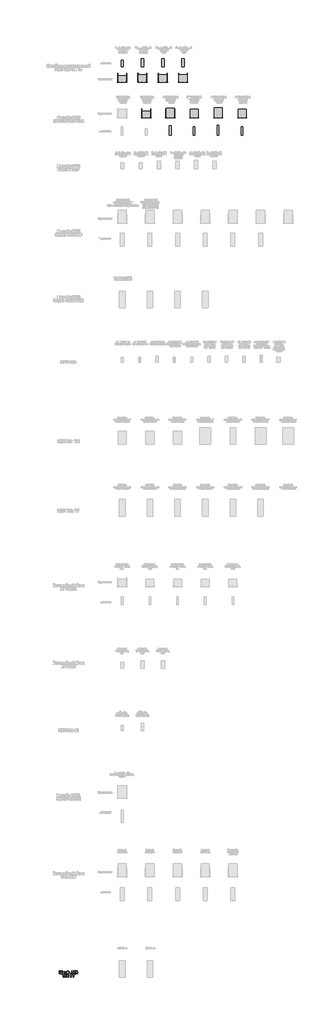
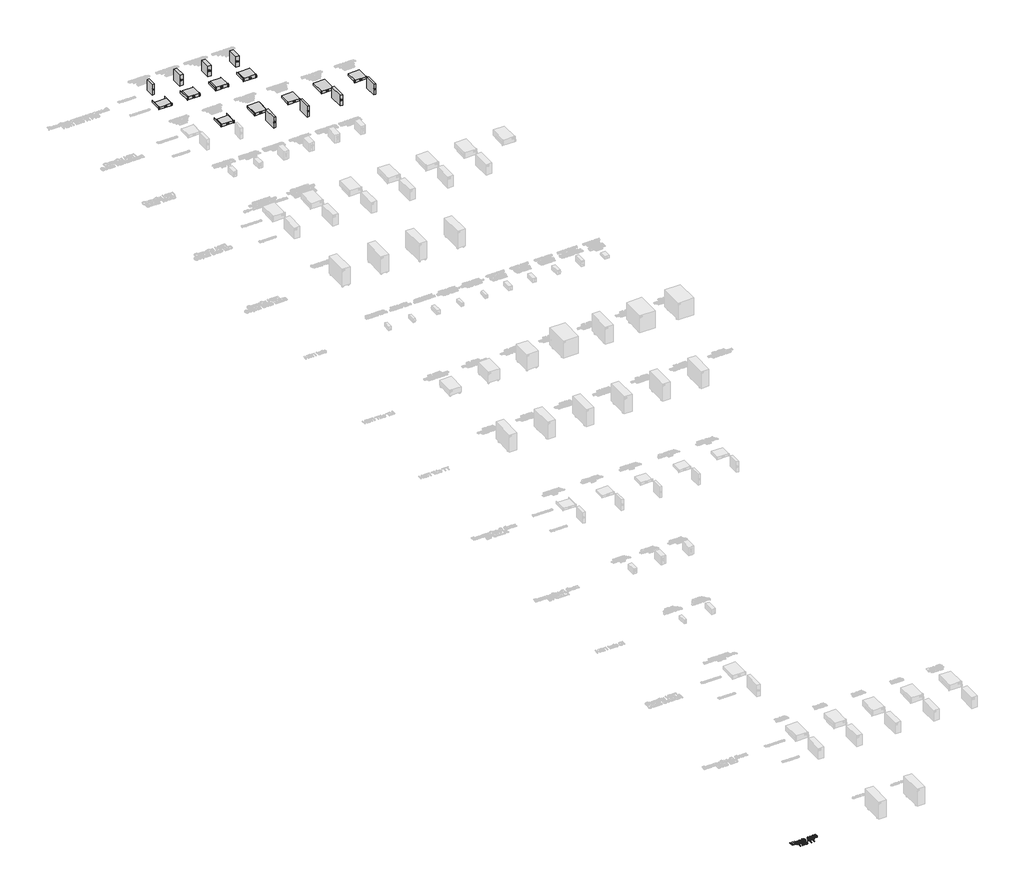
# One storey, part 4 of 74: 70 proxies.
"""IFC4 building model written with IfcOpenShell, lengths in millimetres."""

from ifc_helpers import new_model, si_unit, origin, origin_with_axes, place, context, project, spatial, polyline, outline, extrude, transform, mapped, element, save
from components import electrical_equipment_9999ad84, electrical_equipment_acf2c5a4, electrical_equipment_e30767d2, electrical_equipment_922366cf, electrical_equipment_6d2ac0d9, electrical_equipment_e80a7951, electrical_equipment_c4304d13, electrical_equipment_f03adf1b, electrical_equipment_8e992c06, electrical_equipment_f909d58b, electrical_equipment_2c9e7c44, electrical_equipment_f6df29bd, electrical_equipment_71196d91, electrical_equipment_4dbac31c, as400_464786aa

model = new_model("IFC4")

# Units and contexts
model_context = context("Model", 3, world=origin())
ifc_project = project(units=[si_unit("LENGTHUNIT", "METRE", prefix="MILLI")], contexts=[model_context])

# Site, building, storey
site = spatial("IfcSite", under=ifc_project)
building = spatial("IfcBuilding", under=site)
storey = spatial("IfcBuildingStorey", under=building, Name="Этаж 01", Elevation=0.0)

# Proxies
placement = place(None, origin())
element("IfcBuildingElementProxy", 1, Name="150 мм Arial", ObjectType="150 мм Arial", at=placement, inside=storey, context=model_context, shape_type="SweptSolid", body=[
    extrude(outline(polyline([(-2063.8876748, -45066.805654), (-2045.0521167, -45066.805654), (-2045.0521167, -45198.6545611), (-1990.899887, -45198.6545611), (-1990.899887, -45066.805654), (-1972.0643288, -45066.805654), (-1972.0643288, -45198.6545611), (-1917.9120991, -45198.6545611), (-1917.9120991, -45066.805654), (-1899.076541, -45066.805654), (-1899.076541, -45217.4901192), (-2063.8876748, -45217.4901192), (-2063.8876748, -45066.805654)])), origin_with_axes(), (0.0, 0.0, 1.0), 20.0),
    extrude(outline(polyline([(-1870.8232037, -45106.8312151), (-1851.9876456, -45106.8312151), (-1851.9876456, -45153.9201105), (-1839.3692931, -45150.5355961), (-1829.0318091, -45130.8171212), (-1820.4417645, -45113.8025789), (-1812.8633954, -45108.2659549), (-1799.0862147, -45106.8312151), (-1795.4809711, -45106.8312151), (-1795.4809711, -45125.7771378), (-1800.5577427, -45125.6667732), (-1809.7547925, -45127.653336), (-1816.2295157, -45140.0509592), (-1823.8262789, -45153.460258), (-1834.4764626, -45160.0269516), (-1822.5938742, -45167.3570003), (-1810.9320149, -45182.7988471), (-1790.7720816, -45217.4901192), (-1812.1828137, -45217.4901192), (-1831.9380768, -45183.5346111), (-1841.8708907, -45169.1688192), (-1851.9876456, -45165.6923343), (-1851.9876456, -45217.4901192), (-1870.8232037, -45217.4901192), (-1870.8232037, -45106.8312151)])), origin_with_axes(), (0.0, 0.0, 1.0), 20.0),
    extrude(outline(polyline([(-1708.3665147, -45203.3634506), (-1726.6318557, -45216.1289558), (-1746.8101832, -45219.844564), (-1762.550934, -45217.6096809), (-1774.1622095, -45210.9050315), (-1781.3221128, -45200.7238973), (-1783.7087473, -45188.0595596), (-1780.1035037, -45173.1603388), (-1770.6305424, -45162.3446081), (-1757.4419728, -45156.1641906), (-1741.1448004, -45153.3314993), (-1708.4768793, -45146.8567762), (-1708.3665147, -45142.6629214), (-1709.6632987, -45134.2568178), (-1713.5536508, -45128.756982), (-1722.25406, -45124.6734918), (-1734.3757717, -45123.3123285), (-1753.4320591, -45126.9359661), (-1762.5187444, -45139.7934418), (-1781.3543025, -45137.4389971), (-1773.2057163, -45119.0448973), (-1756.7981793, -45108.2659549), (-1731.9477506, -45104.4767703), (-1709.1206728, -45107.8244965), (-1696.2264088, -45116.2306001), (-1690.4506615, -45129.0144994), (-1689.5309565, -45145.4956128), (-1689.5309565, -45168.9296959), (-1688.5744633, -45201.6527993), (-1684.822067, -45217.4901192), (-1703.6576251, -45217.4901192), (-1708.3665147, -45203.3634506)]), holes=[polyline([(-1708.3665147, -45165.6923343), (-1738.7535675, -45171.4680816), (-1754.9587694, -45174.5215022), (-1762.2980152, -45179.4879091), (-1764.8731891, -45186.7351844), (-1759.2629887, -45196.9255157), (-1742.8002694, -45201.0090058), (-1723.7439821, -45196.5024514), (-1711.4567234, -45185.5947502), (-1708.4768793, -45171.0266232), (-1708.3665147, -45165.6923343)])]), origin_with_axes(), (0.0, 0.0, 1.0), 20.0),
    extrude(outline(polyline([(-1600.0620553, -45066.805654), (-1581.2264971, -45066.805654), (-1581.2264971, -45117.4630047), (-1569.2519382, -45107.6957378), (-1555.2172401, -45104.4767703), (-1538.7315282, -45108.5694575), (-1526.062592, -45120.8475191), (-1517.9921807, -45139.3335894), (-1515.3020436, -45162.0503026), (-1518.1991143, -45185.461393), (-1526.8903264, -45203.8968795), (-1539.8857579, -45215.8576429), (-1555.6954867, -45219.844564), (-1567.2101931, -45218.005154), (-1581.2264971, -45207.9619756), (-1581.2264971, -45259.8701251), (-1600.0620553, -45259.8701251), (-1600.0620553, -45207.9619756), (-1612.0917965, -45216.8647198), (-1626.3288297, -45219.844564), (-1642.1109673, -45216.0369853), (-1655.7593894, -45204.6142494), (-1665.1955625, -45186.100588), (-1668.3409536, -45161.020233), (-1665.4944667, -45138.9381162), (-1656.9550058, -45120.7371545), (-1643.6054879, -45108.5418664), (-1626.3288297, -45104.4767703), (-1611.7423086, -45107.6957378), (-1600.0620553, -45117.4630047), (-1600.0620553, -45066.805654)]), holes=[polyline([(-1581.3368617, -45162.4917609), (-1579.7687647, -45181.5618439), (-1575.0644737, -45193.1547252), (-1567.9965409, -45199.0454357), (-1559.3375184, -45201.0090058), (-1549.6576234, -45198.5947802), (-1541.5136358, -45191.3521035), (-1535.9816103, -45179.0234581), (-1534.1376018, -45161.3513268), (-1535.839056, -45144.5943019), (-1540.9434187, -45132.7301075), (-1548.7149258, -45125.6667732), (-1558.4178134, -45123.3123285), (-1568.4104081, -45125.7633423), (-1575.5795085, -45133.1163836), (-1579.8975234, -45145.3622555), (-1581.3368617, -45162.4917609)]), polyline([(-1649.5053954, -45160.6155628), (-1647.6200002, -45179.092436), (-1641.9638145, -45191.5544386), (-1633.5117257, -45198.645364), (-1623.238621, -45201.0090058), (-1613.0161, -45198.6591596), (-1605.7458321, -45191.6096209), (-1601.400226, -45179.8603896), (-1599.9516907, -45163.4114659), (-1601.4738024, -45145.8680933), (-1606.0401377, -45133.3371128), (-1613.6782876, -45125.8185246), (-1624.4158434, -45123.3123285), (-1634.49581, -45125.7587437), (-1642.5156375, -45133.0979895), (-1647.757956, -45144.8702134), (-1649.5053954, -45160.6155628)])]), origin_with_axes(), (0.0, 0.0, 1.0), 20.0),
    extrude(outline(polyline([(-1448.0900031, -45217.4901192), (-1387.9412969, -45066.805654), (-1371.9016419, -45066.805654), (-1311.7529357, -45217.4901192), (-1331.6553516, -45217.4901192), (-1348.9090172, -45170.4012238), (-1410.9707098, -45170.4012238), (-1428.1875871, -45217.4901192), (-1448.0900031, -45217.4901192)]), holes=[polyline([(-1404.0545283, -45151.5656657), (-1355.7884105, -45151.5656657), (-1369.3632561, -45114.5199488), (-1379.9214694, -45085.6412122), (-1389.3024603, -45111.2825872), (-1404.0545283, -45151.5656657)])]), origin_with_axes(), (0.0, 0.0, 1.0), 20.0),
    extrude(outline(polyline([(-1291.6297905, -45066.805654), (-1272.7942324, -45066.805654), (-1272.7942324, -45132.7301075), (-1260.0425227, -45131.4839073), (-1251.7329882, -45127.7453065), (-1237.0361024, -45102.5269957), (-1226.6434361, -45081.4657515), (-1214.8712122, -45071.0362969), (-1198.040611, -45066.805654), (-1185.6797759, -45067.0263832), (-1185.6797759, -45085.8619414), (-1189.8368425, -45085.7515768), (-1193.993909, -45085.6412122), (-1208.7091888, -45090.1661607), (-1219.8928015, -45109.5535418), (-1233.2285238, -45133.1715659), (-1246.2331523, -45140.9706642), (-1231.6926165, -45149.4871324), (-1217.3544157, -45167.2374387), (-1185.6797759, -45217.4901192), (-1207.5319664, -45217.4901192), (-1234.3137757, -45175.036537), (-1253.1677279, -45152.8716468), (-1261.8727356, -45148.3604938), (-1272.7942324, -45146.8567762), (-1272.7942324, -45217.4901192), (-1291.6297905, -45217.4901192), (-1291.6297905, -45066.805654)])), origin_with_axes(), (0.0, 0.0, 1.0), 20.0),
    extrude(outline(polyline([(-1169.1986625, -45066.805654), (-1075.0208718, -45066.805654), (-1075.0208718, -45085.6412122), (-1150.3631044, -45085.6412122), (-1150.3631044, -45130.3756628), (-1115.083221, -45130.3756628), (-1083.9971925, -45134.2016355), (-1073.595329, -45139.7290625), (-1065.4927281, -45148.6593979), (-1060.2780008, -45160.1557103), (-1058.5397584, -45173.381068), (-1063.4877712, -45194.8469824), (-1078.2582333, -45211.1625489), (-1091.5295763, -45215.9082266), (-1111.6987067, -45217.4901192), (-1169.1986625, -45217.4901192), (-1169.1986625, -45066.805654)]), holes=[polyline([(-1150.3631044, -45198.6545611), (-1110.0064495, -45198.6545611), (-1095.7418251, -45197.1002596), (-1085.5422968, -45192.4373554), (-1079.4170616, -45184.6658482), (-1077.3753165, -45173.7857382), (-1082.0474179, -45159.0336702), (-1095.0520464, -45151.1609955), (-1123.4341423, -45149.2112209), (-1150.3631044, -45149.2112209), (-1150.3631044, -45198.6545611)])]), origin_with_axes(), (0.0, 0.0, 1.0), 20.0),
    extrude(outline(polyline([(-1846.1015337, -45400.452346), (-1846.1015337, -45268.6034389), (-1895.5448738, -45268.6034389), (-1895.5448738, -45249.7678808), (-1777.8226354, -45249.7678808), (-1777.8226354, -45268.6034389), (-1827.2659755, -45268.6034389), (-1827.2659755, -45400.452346), (-1846.1015337, -45400.452346)])), origin_with_axes(), (0.0, 0.0, 1.0), 20.0),
    extrude(outline(polyline([(-1758.9870772, -45400.452346), (-1758.9870772, -45289.7934418), (-1742.5059638, -45289.7934418), (-1742.5059638, -45306.1641906), (-1730.8073164, -45291.0810288), (-1719.0350925, -45287.4389971), (-1700.125958, -45293.2515326), (-1706.4167401, -45310.1373162), (-1719.6604919, -45306.2745552), (-1730.3106757, -45309.9901634), (-1737.0980985, -45320.2908592), (-1740.1515191, -45342.2902026), (-1740.1515191, -45400.452346), (-1758.9870772, -45400.452346)])), origin_with_axes(), (0.0, 0.0, 1.0), 20.0),
    extrude(outline(polyline([(-1688.3537341, -45268.6034389), (-1688.3537341, -45249.7678808), (-1669.518176, -45249.7678808), (-1669.518176, -45268.6034389), (-1688.3537341, -45268.6034389)])), origin_with_axes(), (0.0, 0.0, 1.0), 20.0),
    extrude(outline(polyline([(-1688.3537341, -45400.452346), (-1688.3537341, -45289.7934418), (-1669.518176, -45289.7934418), (-1669.518176, -45400.452346), (-1688.3537341, -45400.452346)])), origin_with_axes(), (0.0, 0.0, 1.0), 20.0),
    extrude(outline(polyline([(-1645.9737283, -45345.1228939), (-1641.8994352, -45318.4422522), (-1629.6765559, -45299.6894675), (-1614.575, -45290.5016147), (-1596.4935999, -45287.4389971), (-1576.7061471, -45291.1684008), (-1560.9010169, -45302.356612), (-1550.5405402, -45320.1207138), (-1547.087048, -45343.5777895), (-1548.6137583, -45362.6064857), (-1553.1938891, -45377.0918393), (-1560.6940833, -45387.9397596), (-1570.9809836, -45396.0561562), (-1583.1992643, -45401.1191321), (-1596.4935999, -45402.8067908), (-1616.520176, -45399.0911826), (-1632.3069122, -45387.9443582), (-1642.5570243, -45369.8077758), (-1645.9737283, -45345.1228939)]), holes=[polyline([(-1627.1381701, -45345.0861057), (-1624.9584693, -45362.1328377), (-1618.4193668, -45374.277542), (-1608.5785235, -45381.54781), (-1596.4935999, -45383.9712326), (-1584.4638587, -45381.5340144), (-1574.6414094, -45374.2223597), (-1568.102307, -45361.916707), (-1565.9226061, -45344.4974945), (-1568.1161025, -45327.9474033), (-1574.6965917, -45315.9682458), (-1584.5328366, -45308.6979779), (-1596.4935999, -45306.2745552), (-1608.5785235, -45308.6887808), (-1618.4193668, -45315.9314576), (-1624.9584693, -45328.0485708), (-1627.1381701, -45345.0861057)])]), origin_with_axes(), (0.0, 0.0, 1.0), 20.0),
    extrude(outline(polyline([(-1427.0103648, -45400.452346), (-1427.0103648, -45268.6034389), (-1476.4537049, -45268.6034389), (-1476.4537049, -45249.7678808), (-1358.7314665, -45249.7678808), (-1358.7314665, -45268.6034389), (-1408.1748066, -45268.6034389), (-1408.1748066, -45400.452346), (-1427.0103648, -45400.452346)])), origin_with_axes(), (0.0, 0.0, 1.0), 20.0),
    extrude(outline(polyline([(-1299.8703472, -45400.452346), (-1299.8703472, -45268.6034389), (-1349.3136874, -45268.6034389), (-1349.3136874, -45249.7678808), (-1231.5914489, -45249.7678808), (-1231.5914489, -45268.6034389), (-1281.0347891, -45268.6034389), (-1281.0347891, -45400.452346), (-1299.8703472, -45400.452346)])), origin_with_axes(), (0.0, 0.0, 1.0), 20.0),
])
electrical_equipment_shape = electrical_equipment_9999ad84(model_context)
element("IfcBuildingElementProxy", 2, Name="НВО_КНС_ОнлайнИБПSmallRackmount_DKC : 2000 ВА", ObjectType="НВО_КНС_ОнлайнИБПSmallRackmount_DKC : 2000 ВА", at=placement, inside=storey, context=model_context, shape_type="MappedRepresentation", body=[
    mapped(electrical_equipment_shape, transform((3952.6732678, 1173.1905557, 0.0), x_axis=(1.0, 0.0, 0.0), y_axis=(0.0, 1.0, 0.0), z_axis=(0.0, 0.0, 1.0))),
])
electrical_equipment_2_shape = electrical_equipment_acf2c5a4(model_context)
element("IfcBuildingElementProxy", 3, Name="НВО_КНС_ОнлайнИБПSmallRackmount_DKC : 2000 ВА, без АКБ", ObjectType="НВО_КНС_ОнлайнИБПSmallRackmount_DKC : 2000 ВА, без АКБ", at=placement, inside=storey, context=model_context, shape_type="MappedRepresentation", body=[
    mapped(electrical_equipment_2_shape, transform((5252.6732678, 1173.1905557, 0.0), x_axis=(1.0, 0.0, 0.0), y_axis=(0.0, 1.0, 0.0), z_axis=(0.0, 0.0, 1.0))),
])
electrical_equipment_3_shape = electrical_equipment_e30767d2(model_context)
element("IfcBuildingElementProxy", 4, Name="НВО_КНС_ОнлайнИБПSmallRackmount_DKC : 3000 ВА", ObjectType="НВО_КНС_ОнлайнИБПSmallRackmount_DKC : 3000 ВА", at=placement, inside=storey, context=model_context, shape_type="MappedRepresentation", body=[
    mapped(electrical_equipment_3_shape, transform((6552.6732678, 1173.1905557, 0.0), x_axis=(1.0, 0.0, 0.0), y_axis=(0.0, 1.0, 0.0), z_axis=(0.0, 0.0, 1.0))),
])
element("IfcBuildingElementProxy", 5, Name="НВО_КНС_ОнлайнИБПSmallRackmount_DKC : 3000 ВА, без АКБ", ObjectType="НВО_КНС_ОнлайнИБПSmallRackmount_DKC : 3000 ВА, без АКБ", at=placement, inside=storey, context=model_context, shape_type="MappedRepresentation", body=[
    mapped(electrical_equipment_2_shape, transform((7852.6732678, 1173.1905557, 0.0), x_axis=(1.0, 0.0, 0.0), y_axis=(0.0, 1.0, 0.0), z_axis=(0.0, 0.0, 1.0))),
])
electrical_equipment_4_shape = electrical_equipment_922366cf(model_context)
element("IfcBuildingElementProxy", 6, Name="НВО_КНС_ОнлайнИБПSmallRackmount_DKC : 2000 ВА", ObjectType="НВО_КНС_ОнлайнИБПSmallRackmount_DKC : 2000 ВА", at=placement, inside=storey, context=model_context, shape_type="MappedRepresentation", body=[
    mapped(electrical_equipment_4_shape, transform((3952.6732678, 224.7189833, 0.0), x_axis=(1.0, 0.0, 0.0), y_axis=(0.0, 1.0, 0.0), z_axis=(0.0, 0.0, 1.0))),
])
electrical_equipment_5_shape = electrical_equipment_6d2ac0d9(model_context)
element("IfcBuildingElementProxy", 7, Name="НВО_КНС_ОнлайнИБПSmallRackmount_DKC : 2000 ВА, без АКБ", ObjectType="НВО_КНС_ОнлайнИБПSmallRackmount_DKC : 2000 ВА, без АКБ", at=placement, inside=storey, context=model_context, shape_type="MappedRepresentation", body=[
    mapped(electrical_equipment_5_shape, transform((5252.6732678, 224.7189833, 0.0), x_axis=(1.0, 0.0, 0.0), y_axis=(0.0, 1.0, 0.0), z_axis=(0.0, 0.0, 1.0))),
])
electrical_equipment_6_shape = electrical_equipment_e80a7951(model_context)
element("IfcBuildingElementProxy", 8, Name="НВО_КНС_ОнлайнИБПSmallRackmount_DKC : 3000 ВА", ObjectType="НВО_КНС_ОнлайнИБПSmallRackmount_DKC : 3000 ВА", at=placement, inside=storey, context=model_context, shape_type="MappedRepresentation", body=[
    mapped(electrical_equipment_6_shape, transform((6552.6732678, 224.7189833, 0.0), x_axis=(1.0, 0.0, 0.0), y_axis=(0.0, 1.0, 0.0), z_axis=(0.0, 0.0, 1.0))),
])
element("IfcBuildingElementProxy", 9, Name="НВО_КНС_ОнлайнИБПSmallRackmount_DKC : 3000 ВА, без АКБ", ObjectType="НВО_КНС_ОнлайнИБПSmallRackmount_DKC : 3000 ВА, без АКБ", at=placement, inside=storey, context=model_context, shape_type="MappedRepresentation", body=[
    mapped(electrical_equipment_5_shape, transform((7852.6732678, 224.7189833, 0.0), x_axis=(1.0, 0.0, 0.0), y_axis=(0.0, 1.0, 0.0), z_axis=(0.0, 0.0, 1.0))),
])
electrical_equipment_7_shape = electrical_equipment_c4304d13(model_context)
element("IfcBuildingElementProxy", 10, Name="НВО_КНС_Линейно-интерактивныйИБПInfoRPro_DKC : 1000 ВА", ObjectType="НВО_КНС_Линейно-интерактивныйИБПInfoRPro_DKC : 1000 ВА", at=placement, inside=storey, context=model_context, shape_type="MappedRepresentation", body=[
    mapped(electrical_equipment_7_shape, transform((1352.6732678, 3959.8697456, 0.0), x_axis=(1.0, 0.0, 0.0), y_axis=(0.0, 1.0, 0.0), z_axis=(0.0, 0.0, 1.0))),
])
electrical_equipment_8_shape = electrical_equipment_f03adf1b(model_context)
element("IfcBuildingElementProxy", 11, Name="НВО_КНС_Линейно-интерактивныйИБПInfoRPro_DKC : 1500 ВА", ObjectType="НВО_КНС_Линейно-интерактивныйИБПInfoRPro_DKC : 1500 ВА", at=placement, inside=storey, context=model_context, shape_type="MappedRepresentation", body=[
    mapped(electrical_equipment_8_shape, transform((2452.6732678, 3959.8697456, 0.0), x_axis=(1.0, 0.0, 0.0), y_axis=(0.0, 1.0, 0.0), z_axis=(0.0, 0.0, 1.0))),
])
element("IfcBuildingElementProxy", 12, Name="НВО_КНС_Линейно-интерактивныйИБПInfoRPro_DKC : 3000 ВА", ObjectType="НВО_КНС_Линейно-интерактивныйИБПInfoRPro_DKC : 3000 ВА", at=placement, inside=storey, context=model_context, shape_type="MappedRepresentation", body=[
    mapped(electrical_equipment_8_shape, transform((4652.6732678, 3959.8697456, 0.0), x_axis=(1.0, 0.0, 0.0), y_axis=(0.0, 1.0, 0.0), z_axis=(0.0, 0.0, 1.0))),
])
electrical_equipment_9_shape = electrical_equipment_8e992c06(model_context)
element("IfcBuildingElementProxy", 13, Name="НВО_КНС_Линейно-интерактивныйИБПInfoRPro_DKC : 1500 ВА", ObjectType="НВО_КНС_Линейно-интерактивныйИБПInfoRPro_DKC : 1500 ВА", at=placement, inside=storey, context=model_context, shape_type="MappedRepresentation", body=[
    mapped(electrical_equipment_9_shape, transform((2447.115278, 3108.9936751, 0.0), x_axis=(1.0, 0.0, 0.0), y_axis=(0.0, 1.0, 0.0), z_axis=(0.0, 0.0, 1.0))),
])
element("IfcBuildingElementProxy", 14, Name="НВО_КНС_Линейно-интерактивныйИБПInfoRPro_DKC : 2000 ВА", ObjectType="НВО_КНС_Линейно-интерактивныйИБПInfoRPro_DKC : 2000 ВА", at=placement, inside=storey, context=model_context, shape_type="MappedRepresentation", body=[
    mapped(electrical_equipment_9_shape, transform((3547.115278, 3108.9936751, 0.0), x_axis=(1.0, 0.0, 0.0), y_axis=(0.0, 1.0, 0.0), z_axis=(0.0, 0.0, 1.0))),
])
element("IfcBuildingElementProxy", 15, Name="НВО_КНС_Линейно-интерактивныйИБПInfoRPro_DKC : 3000 ВА", ObjectType="НВО_КНС_Линейно-интерактивныйИБПInfoRPro_DKC : 3000 ВА", at=placement, inside=storey, context=model_context, shape_type="MappedRepresentation", body=[
    mapped(electrical_equipment_9_shape, transform((4647.115278, 3108.9936751, 0.0), x_axis=(1.0, 0.0, 0.0), y_axis=(0.0, 1.0, 0.0), z_axis=(0.0, 0.0, 1.0))),
])
electrical_equipment_10_shape = electrical_equipment_f909d58b(model_context)
element("IfcBuildingElementProxy", 16, Name="НВО_КНС_Линейно-интерактивныйИБПInfoRPro_DKC : 1000 ВА", ObjectType="НВО_КНС_Линейно-интерактивныйИБПInfoRPro_DKC : 1000 ВА", at=placement, inside=storey, context=model_context, shape_type="MappedRepresentation", body=[
    mapped(electrical_equipment_10_shape, transform((1347.115278, 3108.9936751, 0.0), x_axis=(1.0, 0.0, 0.0), y_axis=(0.0, 1.0, 0.0), z_axis=(0.0, 0.0, 1.0))),
])
element("IfcBuildingElementProxy", 17, Name="НВО_КНС_Линейно-интерактивныйИБПInfoRPro_DKC : 2000 ВА", ObjectType="НВО_КНС_Линейно-интерактивныйИБПInfoRPro_DKC : 2000 ВА", at=placement, inside=storey, context=model_context, shape_type="MappedRepresentation", body=[
    mapped(electrical_equipment_8_shape, transform((3552.6732678, 3959.8697456, 0.0), x_axis=(1.0, 0.0, 0.0), y_axis=(0.0, 1.0, 0.0), z_axis=(0.0, 0.0, 1.0))),
])
electrical_equipment_11_shape = electrical_equipment_2c9e7c44(model_context)
element("IfcBuildingElementProxy", 18, Name="Рельсы для ИБП RAILSMLR : RAILSMLR", ObjectType="Рельсы для ИБП RAILSMLR : RAILSMLR", at=placement, inside=storey, context=model_context, shape_type="MappedRepresentation", body=[
    mapped(electrical_equipment_11_shape, transform((1347.115278, 3110.9936751, 0.0), x_axis=(1.0, 0.0, 0.0), y_axis=(0.0, 1.0, 0.0), z_axis=(0.0, 0.0, 1.0))),
])
element("IfcBuildingElementProxy", 19, Name="Рельсы для ИБП RAILSMLR : RAILSMLR", ObjectType="Рельсы для ИБП RAILSMLR : RAILSMLR", at=placement, inside=storey, context=model_context, shape_type="MappedRepresentation", body=[
    mapped(electrical_equipment_11_shape, transform((2447.115278, 3110.9936751, 0.0), x_axis=(1.0, 0.0, 0.0), y_axis=(0.0, 1.0, 0.0), z_axis=(0.0, 0.0, 1.0))),
])
element("IfcBuildingElementProxy", 20, Name="Рельсы для ИБП RAILSMLR : RAILSMLR", ObjectType="Рельсы для ИБП RAILSMLR : RAILSMLR", at=placement, inside=storey, context=model_context, shape_type="MappedRepresentation", body=[
    mapped(electrical_equipment_11_shape, transform((3547.115278, 3110.9936751, 0.0), x_axis=(1.0, 0.0, 0.0), y_axis=(0.0, 1.0, 0.0), z_axis=(0.0, 0.0, 1.0))),
])
element("IfcBuildingElementProxy", 21, Name="Рельсы для ИБП RAILSMLR : RAILSMLR", ObjectType="Рельсы для ИБП RAILSMLR : RAILSMLR", at=placement, inside=storey, context=model_context, shape_type="MappedRepresentation", body=[
    mapped(electrical_equipment_11_shape, transform((4647.115278, 3110.9936751, 0.0), x_axis=(1.0, 0.0, 0.0), y_axis=(0.0, 1.0, 0.0), z_axis=(0.0, 0.0, 1.0))),
])
element("IfcBuildingElementProxy", 22, Name="Рельсы для ИБП RAILSMLR : RAILSMLR", ObjectType="Рельсы для ИБП RAILSMLR : RAILSMLR", at=placement, inside=storey, context=model_context, shape_type="MappedRepresentation", body=[
    mapped(electrical_equipment_11_shape, transform((2652.6732678, 1175.1905557, 0.0), x_axis=(1.0, 0.0, 0.0), y_axis=(0.0, 1.0, 0.0), z_axis=(0.0, 0.0, 1.0))),
])
element("IfcBuildingElementProxy", 23, Name="Рельсы для ИБП RAILSMLR : RAILSMLR", ObjectType="Рельсы для ИБП RAILSMLR : RAILSMLR", at=placement, inside=storey, context=model_context, shape_type="MappedRepresentation", body=[
    mapped(electrical_equipment_11_shape, transform((3952.6732678, 1175.1905557, 0.0), x_axis=(1.0, 0.0, 0.0), y_axis=(0.0, 1.0, 0.0), z_axis=(0.0, 0.0, 1.0))),
])
electrical_equipment_12_shape = electrical_equipment_f6df29bd(model_context)
element("IfcBuildingElementProxy", 24, Name="Адаптер SNMPSM : SNMPSM", ObjectType="Адаптер SNMPSM : SNMPSM", at=placement, inside=storey, context=model_context, shape_type="MappedRepresentation", body=[
    mapped(electrical_equipment_12_shape, transform((1352.6732678, 4297.8697456, 0.0), x_axis=(1.0, 0.0, 0.0), y_axis=(0.0, 1.0, 0.0), z_axis=(0.0, 0.0, 1.0))),
])
element("IfcBuildingElementProxy", 25, Name="Адаптер SNMPSM : SNMPSM", ObjectType="Адаптер SNMPSM : SNMPSM", at=placement, inside=storey, context=model_context, shape_type="MappedRepresentation", body=[
    mapped(electrical_equipment_12_shape, transform((2452.6732678, 4369.8697456, 0.0), x_axis=(1.0, 0.0, 0.0), y_axis=(0.0, 1.0, 0.0), z_axis=(0.0, 0.0, 1.0))),
])
element("IfcBuildingElementProxy", 26, Name="Адаптер SNMPSM : SNMPSM", ObjectType="Адаптер SNMPSM : SNMPSM", at=placement, inside=storey, context=model_context, shape_type="MappedRepresentation", body=[
    mapped(electrical_equipment_12_shape, transform((3552.6732678, 4369.8697456, 0.0), x_axis=(1.0, 0.0, 0.0), y_axis=(0.0, 1.0, 0.0), z_axis=(0.0, 0.0, 1.0))),
])
element("IfcBuildingElementProxy", 27, Name="Адаптер SNMPSM : SNMPSM", ObjectType="Адаптер SNMPSM : SNMPSM", at=placement, inside=storey, context=model_context, shape_type="MappedRepresentation", body=[
    mapped(electrical_equipment_12_shape, transform((4652.6732678, 4369.8697456, 0.0), x_axis=(1.0, 0.0, 0.0), y_axis=(0.0, 1.0, 0.0), z_axis=(0.0, 0.0, 1.0))),
])
element("IfcBuildingElementProxy", 28, Name="Адаптер SNMPSM : SNMPSM", ObjectType="Адаптер SNMPSM : SNMPSM", at=placement, inside=storey, context=model_context, shape_type="MappedRepresentation", body=[
    mapped(electrical_equipment_12_shape, transform((1347.115278, 3446.9936751, 0.0), x_axis=(1.0, 0.0, 0.0), y_axis=(0.0, 1.0, 0.0), z_axis=(0.0, 0.0, 1.0))),
])
element("IfcBuildingElementProxy", 29, Name="Адаптер SNMPSM : SNMPSM", ObjectType="Адаптер SNMPSM : SNMPSM", at=placement, inside=storey, context=model_context, shape_type="MappedRepresentation", body=[
    mapped(electrical_equipment_12_shape, transform((2447.115278, 3518.9936751, 0.0), x_axis=(1.0, 0.0, 0.0), y_axis=(0.0, 1.0, 0.0), z_axis=(0.0, 0.0, 1.0))),
])
element("IfcBuildingElementProxy", 30, Name="Адаптер SNMPSM : SNMPSM", ObjectType="Адаптер SNMPSM : SNMPSM", at=placement, inside=storey, context=model_context, shape_type="MappedRepresentation", body=[
    mapped(electrical_equipment_12_shape, transform((3547.115278, 3518.9936751, 0.0), x_axis=(1.0, 0.0, 0.0), y_axis=(0.0, 1.0, 0.0), z_axis=(0.0, 0.0, 1.0))),
])
element("IfcBuildingElementProxy", 31, Name="Адаптер SNMPSM : SNMPSM", ObjectType="Адаптер SNMPSM : SNMPSM", at=placement, inside=storey, context=model_context, shape_type="MappedRepresentation", body=[
    mapped(electrical_equipment_12_shape, transform((4647.115278, 3518.9936751, 0.0), x_axis=(1.0, 0.0, 0.0), y_axis=(0.0, 1.0, 0.0), z_axis=(0.0, 0.0, 1.0))),
])
electrical_equipment_13_shape = electrical_equipment_71196d91(model_context)
element("IfcBuildingElementProxy", 32, Name="Внешний переключатель байпаса MBSSMLR : MBSSMLR", ObjectType="Внешний переключатель байпаса MBSSMLR : MBSSMLR", at=placement, inside=storey, context=model_context, shape_type="MappedRepresentation", body=[
    mapped(electrical_equipment_13_shape, transform((1352.6732678, 4297.8697456, 0.0), x_axis=(1.0, 0.0, 0.0), y_axis=(0.0, 1.0, 0.0), z_axis=(0.0, 0.0, 1.0))),
])
element("IfcBuildingElementProxy", 33, Name="Внешний переключатель байпаса MBSSMLR : MBSSMLR", ObjectType="Внешний переключатель байпаса MBSSMLR : MBSSMLR", at=placement, inside=storey, context=model_context, shape_type="MappedRepresentation", body=[
    mapped(electrical_equipment_13_shape, transform((2452.6732678, 4369.8697456, 0.0), x_axis=(1.0, 0.0, 0.0), y_axis=(0.0, 1.0, 0.0), z_axis=(0.0, 0.0, 1.0))),
])
element("IfcBuildingElementProxy", 34, Name="Внешний переключатель байпаса MBSSMLR : MBSSMLR", ObjectType="Внешний переключатель байпаса MBSSMLR : MBSSMLR", at=placement, inside=storey, context=model_context, shape_type="MappedRepresentation", body=[
    mapped(electrical_equipment_13_shape, transform((3552.6732678, 4369.8697456, 0.0), x_axis=(1.0, 0.0, 0.0), y_axis=(0.0, 1.0, 0.0), z_axis=(0.0, 0.0, 1.0))),
])
element("IfcBuildingElementProxy", 35, Name="Внешний переключатель байпаса MBSSMLR : MBSSMLR", ObjectType="Внешний переключатель байпаса MBSSMLR : MBSSMLR", at=placement, inside=storey, context=model_context, shape_type="MappedRepresentation", body=[
    mapped(electrical_equipment_13_shape, transform((4652.6732678, 4369.8697456, 0.0), x_axis=(1.0, 0.0, 0.0), y_axis=(0.0, 1.0, 0.0), z_axis=(0.0, 0.0, 1.0))),
])
element("IfcBuildingElementProxy", 36, Name="Внешний переключатель байпаса MBSSMLR : MBSSMLR", ObjectType="Внешний переключатель байпаса MBSSMLR : MBSSMLR", at=placement, inside=storey, context=model_context, shape_type="MappedRepresentation", body=[
    mapped(electrical_equipment_13_shape, transform((1347.115278, 3446.9936751, 0.0), x_axis=(1.0, 0.0, 0.0), y_axis=(0.0, 1.0, 0.0), z_axis=(0.0, 0.0, 1.0))),
])
element("IfcBuildingElementProxy", 37, Name="Внешний переключатель байпаса MBSSMLR : MBSSMLR", ObjectType="Внешний переключатель байпаса MBSSMLR : MBSSMLR", at=placement, inside=storey, context=model_context, shape_type="MappedRepresentation", body=[
    mapped(electrical_equipment_13_shape, transform((2447.115278, 3518.9936751, 0.0), x_axis=(1.0, 0.0, 0.0), y_axis=(0.0, 1.0, 0.0), z_axis=(0.0, 0.0, 1.0))),
])
element("IfcBuildingElementProxy", 38, Name="Внешний переключатель байпаса MBSSMLR : MBSSMLR", ObjectType="Внешний переключатель байпаса MBSSMLR : MBSSMLR", at=placement, inside=storey, context=model_context, shape_type="MappedRepresentation", body=[
    mapped(electrical_equipment_13_shape, transform((3547.115278, 3518.9936751, 0.0), x_axis=(1.0, 0.0, 0.0), y_axis=(0.0, 1.0, 0.0), z_axis=(0.0, 0.0, 1.0))),
])
element("IfcBuildingElementProxy", 39, Name="Внешний переключатель байпаса MBSSMLR : MBSSMLR", ObjectType="Внешний переключатель байпаса MBSSMLR : MBSSMLR", at=placement, inside=storey, context=model_context, shape_type="MappedRepresentation", body=[
    mapped(electrical_equipment_13_shape, transform((4647.115278, 3518.9936751, 0.0), x_axis=(1.0, 0.0, 0.0), y_axis=(0.0, 1.0, 0.0), z_axis=(0.0, 0.0, 1.0))),
])
element("IfcBuildingElementProxy", 40, Name="Внешний переключатель байпаса MBSSMLR : MBSSMLR", ObjectType="Внешний переключатель байпаса MBSSMLR : MBSSMLR", at=placement, inside=storey, context=model_context, shape_type="MappedRepresentation", body=[
    mapped(electrical_equipment_13_shape, transform((2652.6732678, 1541.1905557, 0.0), x_axis=(1.0, 0.0, 0.0), y_axis=(0.0, 1.0, 0.0), z_axis=(0.0, 0.0, 1.0))),
])
element("IfcBuildingElementProxy", 41, Name="Внешний переключатель байпаса MBSSMLR : MBSSMLR", ObjectType="Внешний переключатель байпаса MBSSMLR : MBSSMLR", at=placement, inside=storey, context=model_context, shape_type="MappedRepresentation", body=[
    mapped(electrical_equipment_13_shape, transform((3952.6732678, 1701.1905557, 0.0), x_axis=(1.0, 0.0, 0.0), y_axis=(0.0, 1.0, 0.0), z_axis=(0.0, 0.0, 1.0))),
])
element("IfcBuildingElementProxy", 42, Name="Внешний переключатель байпаса MBSSMLR : MBSSMLR", ObjectType="Внешний переключатель байпаса MBSSMLR : MBSSMLR", at=placement, inside=storey, context=model_context, shape_type="MappedRepresentation", body=[
    mapped(electrical_equipment_13_shape, transform((5252.6732678, 1641.1905557, 0.0), x_axis=(1.0, 0.0, 0.0), y_axis=(0.0, 1.0, 0.0), z_axis=(0.0, 0.0, 1.0))),
])
element("IfcBuildingElementProxy", 43, Name="Внешний переключатель байпаса MBSSMLR : MBSSMLR", ObjectType="Внешний переключатель байпаса MBSSMLR : MBSSMLR", at=placement, inside=storey, context=model_context, shape_type="MappedRepresentation", body=[
    mapped(electrical_equipment_13_shape, transform((6552.6732678, 1733.1905557, 0.0), x_axis=(1.0, 0.0, 0.0), y_axis=(0.0, 1.0, 0.0), z_axis=(0.0, 0.0, 1.0))),
])
element("IfcBuildingElementProxy", 44, Name="Внешний переключатель байпаса MBSSMLR : MBSSMLR", ObjectType="Внешний переключатель байпаса MBSSMLR : MBSSMLR", at=placement, inside=storey, context=model_context, shape_type="MappedRepresentation", body=[
    mapped(electrical_equipment_13_shape, transform((7852.6732678, 1641.1905557, 0.0), x_axis=(1.0, 0.0, 0.0), y_axis=(0.0, 1.0, 0.0), z_axis=(0.0, 0.0, 1.0))),
])
element("IfcBuildingElementProxy", 45, Name="Внешний переключатель байпаса MBSSMLR : MBSSMLR", ObjectType="Внешний переключатель байпаса MBSSMLR : MBSSMLR", at=placement, inside=storey, context=model_context, shape_type="MappedRepresentation", body=[
    mapped(electrical_equipment_13_shape, transform((2652.6732678, 592.7189833, 0.0), x_axis=(1.0, 0.0, 0.0), y_axis=(0.0, 1.0, 0.0), z_axis=(0.0, 0.0, 1.0))),
])
element("IfcBuildingElementProxy", 46, Name="Внешний переключатель байпаса MBSSMLR : MBSSMLR", ObjectType="Внешний переключатель байпаса MBSSMLR : MBSSMLR", at=placement, inside=storey, context=model_context, shape_type="MappedRepresentation", body=[
    mapped(electrical_equipment_13_shape, transform((3952.6732678, 752.7189833, 0.0), x_axis=(1.0, 0.0, 0.0), y_axis=(0.0, 1.0, 0.0), z_axis=(0.0, 0.0, 1.0))),
])
element("IfcBuildingElementProxy", 47, Name="Внешний переключатель байпаса MBSSMLR : MBSSMLR", ObjectType="Внешний переключатель байпаса MBSSMLR : MBSSMLR", at=placement, inside=storey, context=model_context, shape_type="MappedRepresentation", body=[
    mapped(electrical_equipment_13_shape, transform((5252.6732678, 692.7189833, 0.0), x_axis=(1.0, 0.0, 0.0), y_axis=(0.0, 1.0, 0.0), z_axis=(0.0, 0.0, 1.0))),
])
element("IfcBuildingElementProxy", 48, Name="Внешний переключатель байпаса MBSSMLR : MBSSMLR", ObjectType="Внешний переключатель байпаса MBSSMLR : MBSSMLR", at=placement, inside=storey, context=model_context, shape_type="MappedRepresentation", body=[
    mapped(electrical_equipment_13_shape, transform((6552.6732678, 784.7189833, 0.0), x_axis=(1.0, 0.0, 0.0), y_axis=(0.0, 1.0, 0.0), z_axis=(0.0, 0.0, 1.0))),
])
element("IfcBuildingElementProxy", 49, Name="Внешний переключатель байпаса MBSSMLR : MBSSMLR", ObjectType="Внешний переключатель байпаса MBSSMLR : MBSSMLR", at=placement, inside=storey, context=model_context, shape_type="MappedRepresentation", body=[
    mapped(electrical_equipment_13_shape, transform((7852.6732678, 692.7189833, 0.0), x_axis=(1.0, 0.0, 0.0), y_axis=(0.0, 1.0, 0.0), z_axis=(0.0, 0.0, 1.0))),
])
element("IfcBuildingElementProxy", 50, Name="Адаптер SNMPSM2 : SNMPSM2", ObjectType="Адаптер SNMPSM2 : SNMPSM2", at=placement, inside=storey, context=model_context, shape_type="MappedRepresentation", body=[
    mapped(electrical_equipment_12_shape, transform((2652.6732678, 1541.1905557, 0.0), x_axis=(1.0, 0.0, 0.0), y_axis=(0.0, 1.0, 0.0), z_axis=(0.0, 0.0, 1.0))),
])
element("IfcBuildingElementProxy", 51, Name="Адаптер SNMPSM2 : SNMPSM2", ObjectType="Адаптер SNMPSM2 : SNMPSM2", at=placement, inside=storey, context=model_context, shape_type="MappedRepresentation", body=[
    mapped(electrical_equipment_12_shape, transform((3952.6732678, 1701.1905557, 0.0), x_axis=(1.0, 0.0, 0.0), y_axis=(0.0, 1.0, 0.0), z_axis=(0.0, 0.0, 1.0))),
])
electrical_equipment_14_shape = electrical_equipment_4dbac31c(model_context)
element("IfcBuildingElementProxy", 52, Name="НВО_КНС_ОнлайнИБПSmallRackmount_DKC : 1000 ВА, без АКБ", ObjectType="НВО_КНС_ОнлайнИБПSmallRackmount_DKC : 1000 ВА, без АКБ", at=placement, inside=storey, context=model_context, shape_type="MappedRepresentation", body=[
    mapped(electrical_equipment_14_shape, transform((2652.6732678, 1173.1905557, 0.0), x_axis=(1.0, 0.0, 0.0), y_axis=(0.0, 1.0, 0.0), z_axis=(0.0, 0.0, 1.0))),
])
as400_shape = as400_464786aa(model_context)
element("IfcBuildingElementProxy", 53, Name="Адаптер AS400 : AS400", ObjectType="Адаптер AS400 : AS400", at=placement, inside=storey, context=model_context, shape_type="MappedRepresentation", body=[
    mapped(as400_shape, transform((2652.6732678, 1541.1905557, 0.0), x_axis=(1.0, 0.0, 0.0), y_axis=(0.0, 1.0, 0.0), z_axis=(0.0, 0.0, 1.0))),
])
element("IfcBuildingElementProxy", 54, Name="Адаптер AS400 : AS400", ObjectType="Адаптер AS400 : AS400", at=placement, inside=storey, context=model_context, shape_type="MappedRepresentation", body=[
    mapped(as400_shape, transform((3952.6732678, 1701.1905557, 0.0), x_axis=(1.0, 0.0, 0.0), y_axis=(0.0, 1.0, 0.0), z_axis=(0.0, 0.0, 1.0))),
])
element("IfcBuildingElementProxy", 55, Name="Адаптер AS400 : AS400", ObjectType="Адаптер AS400 : AS400", at=placement, inside=storey, context=model_context, shape_type="MappedRepresentation", body=[
    mapped(as400_shape, transform((5252.6732678, 1641.1905557, 0.0), x_axis=(1.0, 0.0, 0.0), y_axis=(0.0, 1.0, 0.0), z_axis=(0.0, 0.0, 1.0))),
])
element("IfcBuildingElementProxy", 56, Name="Адаптер AS400 : AS400", ObjectType="Адаптер AS400 : AS400", at=placement, inside=storey, context=model_context, shape_type="MappedRepresentation", body=[
    mapped(as400_shape, transform((6552.6732678, 1733.1905557, 0.0), x_axis=(1.0, 0.0, 0.0), y_axis=(0.0, 1.0, 0.0), z_axis=(0.0, 0.0, 1.0))),
])
element("IfcBuildingElementProxy", 57, Name="Адаптер AS400 : AS400", ObjectType="Адаптер AS400 : AS400", at=placement, inside=storey, context=model_context, shape_type="MappedRepresentation", body=[
    mapped(as400_shape, transform((7852.6732678, 1641.1905557, 0.0), x_axis=(1.0, 0.0, 0.0), y_axis=(0.0, 1.0, 0.0), z_axis=(0.0, 0.0, 1.0))),
])
element("IfcBuildingElementProxy", 58, Name="Адаптер AS400 : AS400", ObjectType="Адаптер AS400 : AS400", at=placement, inside=storey, context=model_context, shape_type="MappedRepresentation", body=[
    mapped(as400_shape, transform((2652.6732678, 592.7189833, 0.0), x_axis=(1.0, 0.0, 0.0), y_axis=(0.0, 1.0, 0.0), z_axis=(0.0, 0.0, 1.0))),
])
element("IfcBuildingElementProxy", 59, Name="Адаптер AS400 : AS400", ObjectType="Адаптер AS400 : AS400", at=placement, inside=storey, context=model_context, shape_type="MappedRepresentation", body=[
    mapped(as400_shape, transform((3952.6732678, 752.7189833, 0.0), x_axis=(1.0, 0.0, 0.0), y_axis=(0.0, 1.0, 0.0), z_axis=(0.0, 0.0, 1.0))),
])
element("IfcBuildingElementProxy", 60, Name="Адаптер AS400 : AS400", ObjectType="Адаптер AS400 : AS400", at=placement, inside=storey, context=model_context, shape_type="MappedRepresentation", body=[
    mapped(as400_shape, transform((5252.6732678, 692.7189833, 0.0), x_axis=(1.0, 0.0, 0.0), y_axis=(0.0, 1.0, 0.0), z_axis=(0.0, 0.0, 1.0))),
])
element("IfcBuildingElementProxy", 61, Name="Адаптер AS400 : AS400", ObjectType="Адаптер AS400 : AS400", at=placement, inside=storey, context=model_context, shape_type="MappedRepresentation", body=[
    mapped(as400_shape, transform((6552.6732678, 784.7189833, 0.0), x_axis=(1.0, 0.0, 0.0), y_axis=(0.0, 1.0, 0.0), z_axis=(0.0, 0.0, 1.0))),
])
element("IfcBuildingElementProxy", 62, Name="Адаптер AS400 : AS400", ObjectType="Адаптер AS400 : AS400", at=placement, inside=storey, context=model_context, shape_type="MappedRepresentation", body=[
    mapped(as400_shape, transform((7852.6732678, 692.7189833, 0.0), x_axis=(1.0, 0.0, 0.0), y_axis=(0.0, 1.0, 0.0), z_axis=(0.0, 0.0, 1.0))),
])
element("IfcBuildingElementProxy", 63, Name="Адаптер AS400INFO : AS400INFO", ObjectType="Адаптер AS400INFO : AS400INFO", at=placement, inside=storey, context=model_context, shape_type="MappedRepresentation", body=[
    mapped(as400_shape, transform((1352.6732678, 4297.8697456, 0.0), x_axis=(1.0, 0.0, 0.0), y_axis=(0.0, 1.0, 0.0), z_axis=(0.0, 0.0, 1.0))),
])
element("IfcBuildingElementProxy", 64, Name="Адаптер AS400INFO : AS400INFO", ObjectType="Адаптер AS400INFO : AS400INFO", at=placement, inside=storey, context=model_context, shape_type="MappedRepresentation", body=[
    mapped(as400_shape, transform((2452.6732678, 4369.8697456, 0.0), x_axis=(1.0, 0.0, 0.0), y_axis=(0.0, 1.0, 0.0), z_axis=(0.0, 0.0, 1.0))),
])
element("IfcBuildingElementProxy", 65, Name="Адаптер AS400INFO : AS400INFO", ObjectType="Адаптер AS400INFO : AS400INFO", at=placement, inside=storey, context=model_context, shape_type="MappedRepresentation", body=[
    mapped(as400_shape, transform((3552.6732678, 4369.8697456, 0.0), x_axis=(1.0, 0.0, 0.0), y_axis=(0.0, 1.0, 0.0), z_axis=(0.0, 0.0, 1.0))),
])
element("IfcBuildingElementProxy", 66, Name="Адаптер AS400INFO : AS400INFO", ObjectType="Адаптер AS400INFO : AS400INFO", at=placement, inside=storey, context=model_context, shape_type="MappedRepresentation", body=[
    mapped(as400_shape, transform((4652.6732678, 4369.8697456, 0.0), x_axis=(1.0, 0.0, 0.0), y_axis=(0.0, 1.0, 0.0), z_axis=(0.0, 0.0, 1.0))),
])
element("IfcBuildingElementProxy", 67, Name="Адаптер AS400INFO : AS400INFO", ObjectType="Адаптер AS400INFO : AS400INFO", at=placement, inside=storey, context=model_context, shape_type="MappedRepresentation", body=[
    mapped(as400_shape, transform((1347.115278, 3446.9936751, 0.0), x_axis=(1.0, 0.0, 0.0), y_axis=(0.0, 1.0, 0.0), z_axis=(0.0, 0.0, 1.0))),
])
element("IfcBuildingElementProxy", 68, Name="Адаптер AS400INFO : AS400INFO", ObjectType="Адаптер AS400INFO : AS400INFO", at=placement, inside=storey, context=model_context, shape_type="MappedRepresentation", body=[
    mapped(as400_shape, transform((2447.115278, 3518.9936751, 0.0), x_axis=(1.0, 0.0, 0.0), y_axis=(0.0, 1.0, 0.0), z_axis=(0.0, 0.0, 1.0))),
])
element("IfcBuildingElementProxy", 69, Name="Адаптер AS400INFO : AS400INFO", ObjectType="Адаптер AS400INFO : AS400INFO", at=placement, inside=storey, context=model_context, shape_type="MappedRepresentation", body=[
    mapped(as400_shape, transform((3547.115278, 3518.9936751, 0.0), x_axis=(1.0, 0.0, 0.0), y_axis=(0.0, 1.0, 0.0), z_axis=(0.0, 0.0, 1.0))),
])
element("IfcBuildingElementProxy", 70, Name="Адаптер AS400INFO : AS400INFO", ObjectType="Адаптер AS400INFO : AS400INFO", at=placement, inside=storey, context=model_context, shape_type="MappedRepresentation", body=[
    mapped(as400_shape, transform((4647.115278, 3518.9936751, 0.0), x_axis=(1.0, 0.0, 0.0), y_axis=(0.0, 1.0, 0.0), z_axis=(0.0, 0.0, 1.0))),
])

save(model, "model.ifc")
